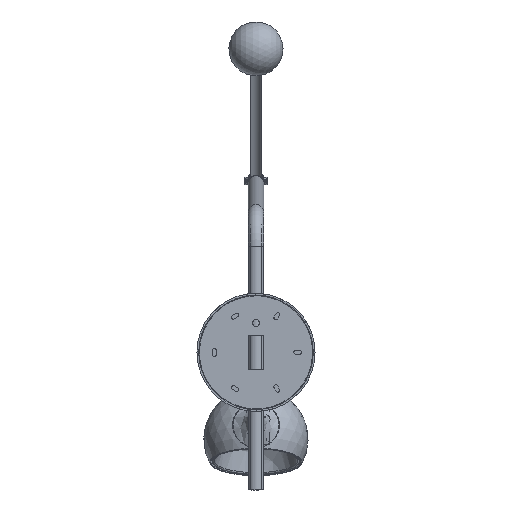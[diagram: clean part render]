
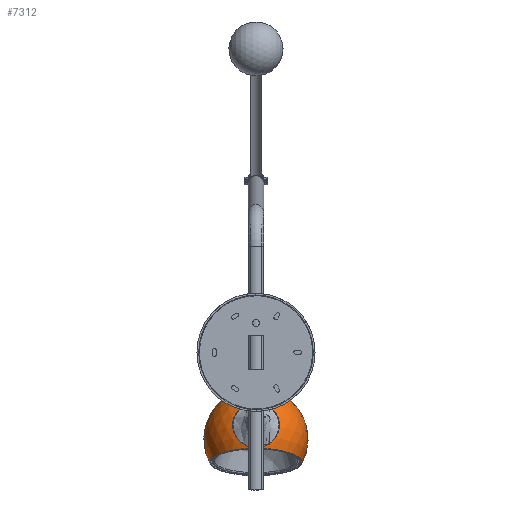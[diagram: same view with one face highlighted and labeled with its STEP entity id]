
A CAD part, front view. The second image highlights one B-rep face of the part: STEP entity #7312.
In plain terms, the highlighted spherical face has radius 75 mm.
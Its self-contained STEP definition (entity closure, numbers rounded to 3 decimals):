
#91=SPHERICAL_SURFACE('',#8119,75.);
#1553=B_SPLINE_CURVE_WITH_KNOTS('',3,(#51129,#51130,#51131,#51132,#51133,
#51134,#51135,#51136,#51137,#51138,#51139,#51140,#51141,#51142,#51143,#51144,
#51145,#51146),.UNSPECIFIED.,.F.,.F.,(4,2,2,2,2,2,2,2,4),(-0.98,
-0.857,-0.735,-0.612,-0.49,
-0.367,-0.245,-0.123,0.),
 .UNSPECIFIED.);
#1554=B_SPLINE_CURVE_WITH_KNOTS('',3,(#51155,#51156,#51157,#51158,#51159,
#51160,#51161,#51162,#51163,#51164,#51165,#51166,#51167,#51168,#51169,#51170,
#51171,#51172),.UNSPECIFIED.,.F.,.F.,(4,2,2,2,2,2,2,2,4),(-1.959,
-1.837,-1.714,-1.592,-1.47,
-1.347,-1.225,-1.102,-0.98),
 .UNSPECIFIED.);
#1710=FACE_BOUND('',#2625,.T.);
#2138=FACE_OUTER_BOUND('',#2624,.T.);
#2624=EDGE_LOOP('',(#6668,#6669,#6670,#6671,#6672,#6673,#6674,#6675));
#2625=EDGE_LOOP('',(#6676));
#2880=CIRCLE('',#8120,74.93);
#2881=CIRCLE('',#8121,75.);
#2882=CIRCLE('',#8122,66.448);
#2883=CIRCLE('',#8123,74.93);
#2884=CIRCLE('',#8124,74.93);
#2885=CIRCLE('',#8125,4.);
#3515=VERTEX_POINT('',#51127);
#3516=VERTEX_POINT('',#51128);
#3517=VERTEX_POINT('',#51147);
#3518=VERTEX_POINT('',#51149);
#3519=VERTEX_POINT('',#51152);
#3520=VERTEX_POINT('',#51154);
#3521=VERTEX_POINT('',#51174);
#4572=EDGE_CURVE('',#3515,#3516,#1553,.T.);
#4573=EDGE_CURVE('',#3516,#3517,#2880,.T.);
#4574=EDGE_CURVE('',#3517,#3518,#2881,.T.);
#4575=EDGE_CURVE('',#3518,#3518,#2882,.T.);
#4576=EDGE_CURVE('',#3517,#3519,#2883,.T.);
#4577=EDGE_CURVE('',#3519,#3520,#1554,.T.);
#4578=EDGE_CURVE('',#3520,#3515,#2884,.T.);
#4579=EDGE_CURVE('',#3521,#3521,#2885,.T.);
#6668=ORIENTED_EDGE('',*,*,#4572,.T.);
#6669=ORIENTED_EDGE('',*,*,#4573,.T.);
#6670=ORIENTED_EDGE('',*,*,#4574,.T.);
#6671=ORIENTED_EDGE('',*,*,#4575,.T.);
#6672=ORIENTED_EDGE('',*,*,#4574,.F.);
#6673=ORIENTED_EDGE('',*,*,#4576,.T.);
#6674=ORIENTED_EDGE('',*,*,#4577,.T.);
#6675=ORIENTED_EDGE('',*,*,#4578,.T.);
#6676=ORIENTED_EDGE('',*,*,#4579,.T.);
#7312=ADVANCED_FACE('',(#2138,#1710),#91,.T.);
#8119=AXIS2_PLACEMENT_3D('',#51126,#9623,#9624);
#8120=AXIS2_PLACEMENT_3D('',#51148,#9625,#9626);
#8121=AXIS2_PLACEMENT_3D('',#51150,#9627,#9628);
#8122=AXIS2_PLACEMENT_3D('',#51151,#9629,#9630);
#8123=AXIS2_PLACEMENT_3D('',#51153,#9631,#9632);
#8124=AXIS2_PLACEMENT_3D('',#51173,#9633,#9634);
#8125=AXIS2_PLACEMENT_3D('',#51175,#9635,#9636);
#9623=DIRECTION('center_axis',(0.,0.,1.));
#9624=DIRECTION('ref_axis',(1.,0.,0.));
#9625=DIRECTION('center_axis',(-1.,0.,0.));
#9626=DIRECTION('ref_axis',(0.,0.,-1.));
#9627=DIRECTION('center_axis',(0.,-1.,0.));
#9628=DIRECTION('ref_axis',(-1.,0.,0.));
#9629=DIRECTION('center_axis',(0.,0.,1.));
#9630=DIRECTION('ref_axis',(1.,0.,0.));
#9631=DIRECTION('center_axis',(-1.,0.,0.));
#9632=DIRECTION('ref_axis',(0.,0.,-1.));
#9633=DIRECTION('center_axis',(1.,0.,0.));
#9634=DIRECTION('ref_axis',(0.,0.,1.));
#9635=DIRECTION('center_axis',(0.,-0.552,-0.834));
#9636=DIRECTION('ref_axis',(0.,0.834,-0.552));
#51126=CARTESIAN_POINT('Origin',(0.,0.,0.));
#51127=CARTESIAN_POINT('',(3.25,-74.879,-2.75));
#51128=CARTESIAN_POINT('',(-3.25,-74.879,-2.75));
#51129=CARTESIAN_POINT('Ctrl Pts',(3.25,-74.879,-2.75));
#51130=CARTESIAN_POINT('Ctrl Pts',(3.25,-74.864,-3.158));
#51131=CARTESIAN_POINT('Ctrl Pts',(3.168,-74.848,-3.593));
#51132=CARTESIAN_POINT('Ctrl Pts',(2.837,-74.819,-4.394));
#51133=CARTESIAN_POINT('Ctrl Pts',(2.586,-74.805,-4.76));
#51134=CARTESIAN_POINT('Ctrl Pts',(2.009,-74.784,-5.337));
#51135=CARTESIAN_POINT('Ctrl Pts',(1.644,-74.775,-5.587));
#51136=CARTESIAN_POINT('Ctrl Pts',(0.843,-74.763,
-5.918));
#51137=CARTESIAN_POINT('Ctrl Pts',(0.408,-74.76,-6.));
#51138=CARTESIAN_POINT('Ctrl Pts',(-0.408,-74.76,
-6.));
#51139=CARTESIAN_POINT('Ctrl Pts',(-0.843,-74.763,
-5.918));
#51140=CARTESIAN_POINT('Ctrl Pts',(-1.644,-74.775,
-5.587));
#51141=CARTESIAN_POINT('Ctrl Pts',(-2.009,-74.784,-5.337));
#51142=CARTESIAN_POINT('Ctrl Pts',(-2.586,-74.805,
-4.76));
#51143=CARTESIAN_POINT('Ctrl Pts',(-2.837,-74.819,
-4.394));
#51144=CARTESIAN_POINT('Ctrl Pts',(-3.168,-74.848,
-3.593));
#51145=CARTESIAN_POINT('Ctrl Pts',(-3.25,-74.864,-3.158));
#51146=CARTESIAN_POINT('Ctrl Pts',(-3.25,-74.879,-2.75));
#51147=CARTESIAN_POINT('',(-3.25,0.,74.93));
#51148=CARTESIAN_POINT('Origin',(-3.25,0.,0.));
#51149=CARTESIAN_POINT('',(-66.448,0.,-34.781));
#51150=CARTESIAN_POINT('Origin',(0.,0.,0.));
#51151=CARTESIAN_POINT('Origin',(0.,0.,-34.781));
#51152=CARTESIAN_POINT('',(-3.25,2.75,74.879));
#51153=CARTESIAN_POINT('Origin',(-3.25,0.,0.));
#51154=CARTESIAN_POINT('',(3.25,2.75,74.879));
#51155=CARTESIAN_POINT('Ctrl Pts',(-3.25,2.75,74.879));
#51156=CARTESIAN_POINT('Ctrl Pts',(-3.25,3.158,74.864));
#51157=CARTESIAN_POINT('Ctrl Pts',(-3.168,3.593,74.848));
#51158=CARTESIAN_POINT('Ctrl Pts',(-2.837,4.394,74.819));
#51159=CARTESIAN_POINT('Ctrl Pts',(-2.586,4.76,74.805));
#51160=CARTESIAN_POINT('Ctrl Pts',(-2.009,5.337,74.784));
#51161=CARTESIAN_POINT('Ctrl Pts',(-1.644,5.587,74.775));
#51162=CARTESIAN_POINT('Ctrl Pts',(-0.843,5.918,74.763));
#51163=CARTESIAN_POINT('Ctrl Pts',(-0.408,6.,
74.76));
#51164=CARTESIAN_POINT('Ctrl Pts',(0.408,6.,74.76));
#51165=CARTESIAN_POINT('Ctrl Pts',(0.843,5.918,74.763));
#51166=CARTESIAN_POINT('Ctrl Pts',(1.644,5.587,74.775));
#51167=CARTESIAN_POINT('Ctrl Pts',(2.009,5.337,74.784));
#51168=CARTESIAN_POINT('Ctrl Pts',(2.586,4.76,74.805));
#51169=CARTESIAN_POINT('Ctrl Pts',(2.837,4.394,74.819));
#51170=CARTESIAN_POINT('Ctrl Pts',(3.168,3.593,74.848));
#51171=CARTESIAN_POINT('Ctrl Pts',(3.25,3.158,74.864));
#51172=CARTESIAN_POINT('Ctrl Pts',(3.25,2.75,74.879));
#51173=CARTESIAN_POINT('Origin',(3.25,0.,0.));
#51174=CARTESIAN_POINT('',(0.,38.001,64.66));
#51175=CARTESIAN_POINT('Origin',(0.,41.336,62.452));
